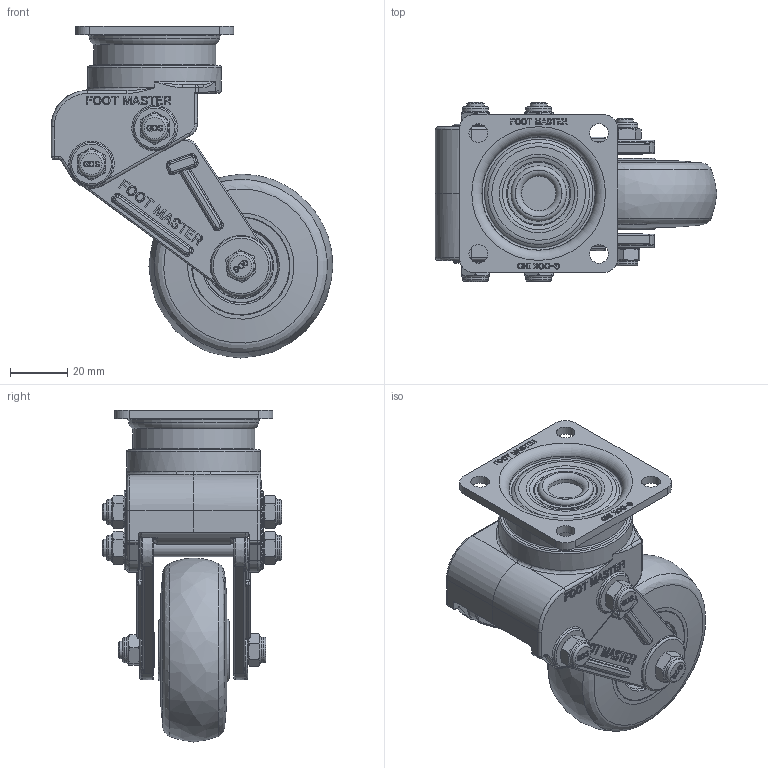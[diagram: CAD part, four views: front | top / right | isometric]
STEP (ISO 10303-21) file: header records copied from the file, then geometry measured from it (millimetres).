
FILE_DESCRIPTION(/* description */ (''),/* implementation_level */ '2;1');
FILE_NAME(/* name */ '\\192.168.10.38\지덕공유\1.기술연구소\2.연구개발 완료\완료_55.소형 충격흡수식캐스터_GDS-50.65\5.홈페이지 도면\3D\GDS-65-ARF-EUS-1.stp',/* time_stamp */ '2024-12-05T10:27:55+09:00',/* author */ ('admin'),/* organization */ (''),/* preprocessor_version */ 'ST-DEVELOPER v18.1',/* originating_system */ 'Autodesk Inventor 2021',/* authorisation */ '');
FILE_SCHEMA (('AUTOMOTIVE_DESIGN { 1 0 10303 214 3 1 1 }'));
Products named in the file (1): GDS-65-ARF-EUS
Bounding box: 98 x 62.3 x 115.51 mm (x, y, z)
Volume: 148334 mm3; surface area: 48430.7 mm2
Topology: 1 solids, 1 shells, 1968 faces, 5165 edges, 3316 vertices
Faces by surface type: plane 765, bspline 658, cylinder 261, cone 152, torus 116, sphere 16
Full cylindrical faces by diameter (mm): 6 x5, 6.5 x4, 8.8 x3, 9 x6, 12 x1, 17.216 x2, 18 x1, 19.3 x1, 20 x2, 22 x2, 22.784 x2, 42.5 x1, 46.5 x1
Entity records: 68321 total; most frequent: CARTESIAN_POINT 22124, ORIENTED_EDGE 10306, DIRECTION 7480, EDGE_CURVE 5153, VERTEX_POINT 3316, LINE 2508, VECTOR 2508, AXIS2_PLACEMENT_3D 2486
